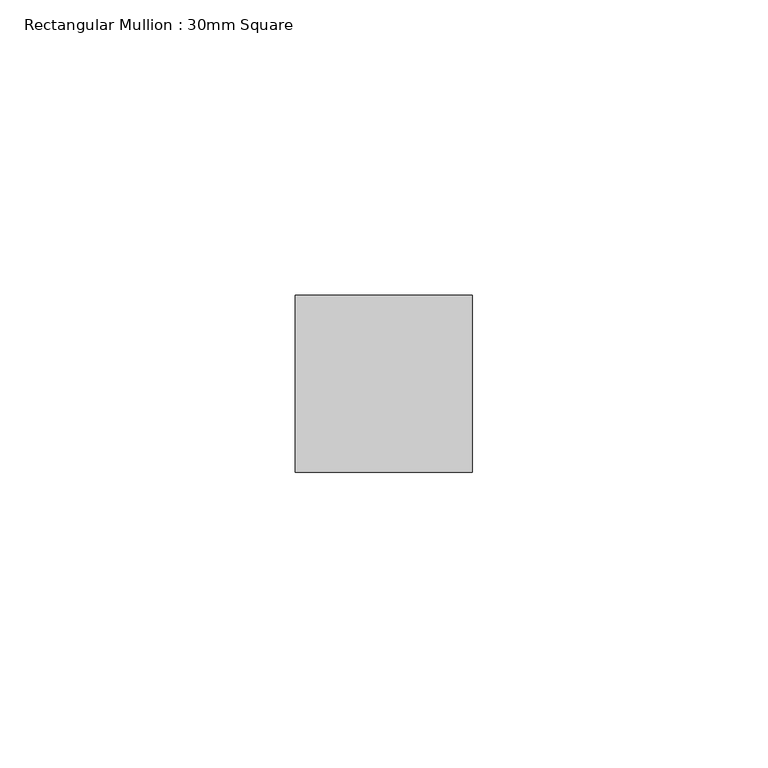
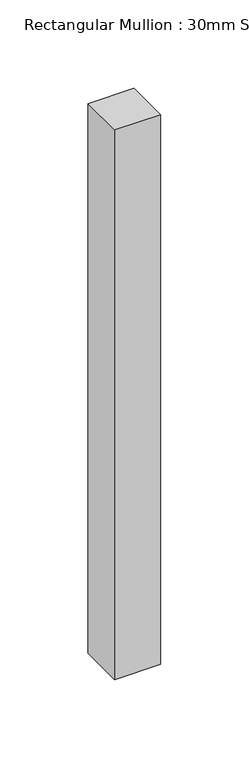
"""IFC4 building model written with IfcOpenShell, lengths in millimetres: member geometry, Rectangular Mullion : 30mm Square."""

from ifc_helpers import new_model, si_unit, frame, origin, place, context, project, spatial, polyline, outline, extrude, source, transform, mapped, element, save


def rectangular_mullion_30mm_square_5f75bcdb(model_context):
    return source(origin(), model_context, "Body", "SweptSolid", [
        extrude(outline(polyline([(15.0, 15.0), (15.0, -15.0), (-15.0, -15.0), (-15.0, 15.0), (15.0, 15.0)])), frame((0.0, 0.0, -380.0), z_axis=(0.0, 0.0, 1.0), x_axis=(1.0, 0.0, 0.0)), (0.0, 0.0, 1.0), 380.0),
    ])


if __name__ == "__main__":
    model = new_model("IFC4")
    model_context = context("Model", 3, world=origin())
    ifc_project = project(units=[si_unit("LENGTHUNIT", "METRE", prefix="MILLI")], contexts=[model_context])
    site = spatial("IfcSite", under=ifc_project)
    building = spatial("IfcBuilding", under=site)
    placement = place(None, origin())
    rectangular_mullion_30mm_square_shape = rectangular_mullion_30mm_square_5f75bcdb(model_context)
    element("IfcMember", 1, ObjectType="Rectangular Mullion : 30mm Square", at=placement, inside=building, context=model_context, shape_type="MappedRepresentation", body=[
        mapped(rectangular_mullion_30mm_square_shape, transform((0.0, 0.0, 0.0), x_axis=(1.0, 0.0, 0.0), y_axis=(0.0, 1.0, 0.0), z_axis=(0.0, 0.0, 1.0))),
    ])
    save(model, "model.ifc")
